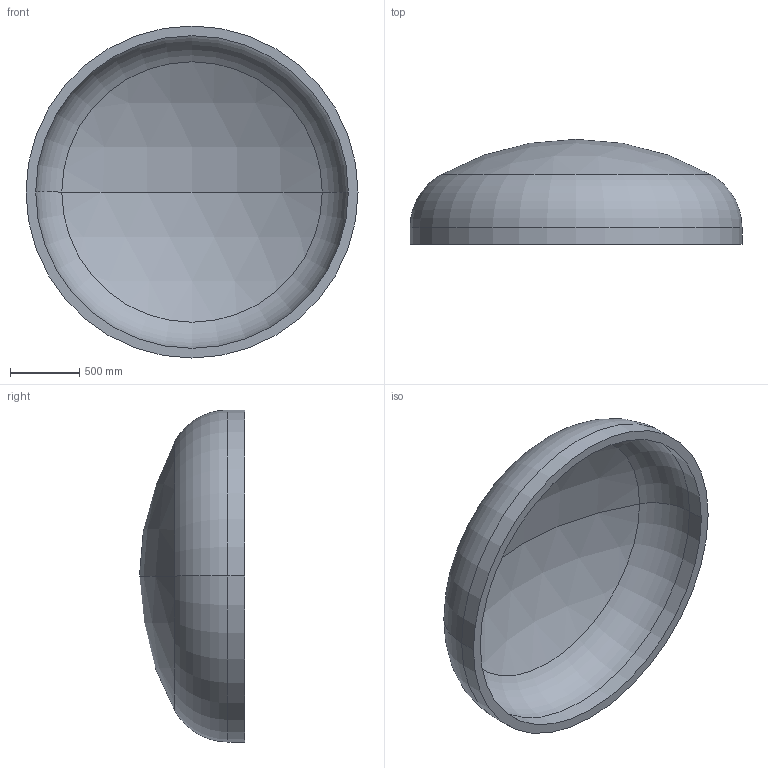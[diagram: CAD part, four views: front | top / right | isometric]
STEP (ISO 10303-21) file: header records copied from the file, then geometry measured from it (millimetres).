
FILE_DESCRIPTION (( 'STEP AP203' ), '1' );
FILE_NAME ('DIN 28013 Korbbogenform_-_Boden DIN 28013 - 2400 x 120 - I - s=70.step', '2016-07-01T15:32:31', ( '' ), ( '' ), 'SwSTEP 2.0', 'SolidWorks 2013', '' );
FILE_SCHEMA (( 'CONFIG_CONTROL_DESIGN' ));
Length unit declared in the file: millimetre
Products named in the file (1): DIN 28013 Korbbogenform_-_Boden DIN 28013 - 2400 x 120 - I - s=70
Bounding box: 2400 x 759.11 x 2400 mm (x, y, z)
Volume: 483757674.4 mm3; surface area: 14344299.8 mm2
Topology: 1 solids, 1 shells, 13 faces, 24 edges, 14 vertices
Faces by surface type: torus 4, cylinder 4, sphere 4, plane 1
Entity records: 407 total; most frequent: DIRECTION 72, CARTESIAN_POINT 52, ORIENTED_EDGE 48, AXIS2_PLACEMENT_3D 34, EDGE_CURVE 24, CIRCLE 20, EDGE_LOOP 14, VERTEX_POINT 14
